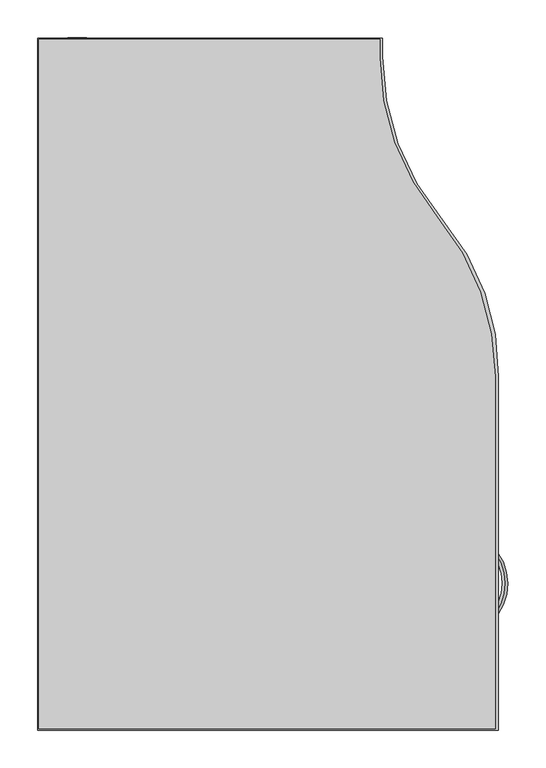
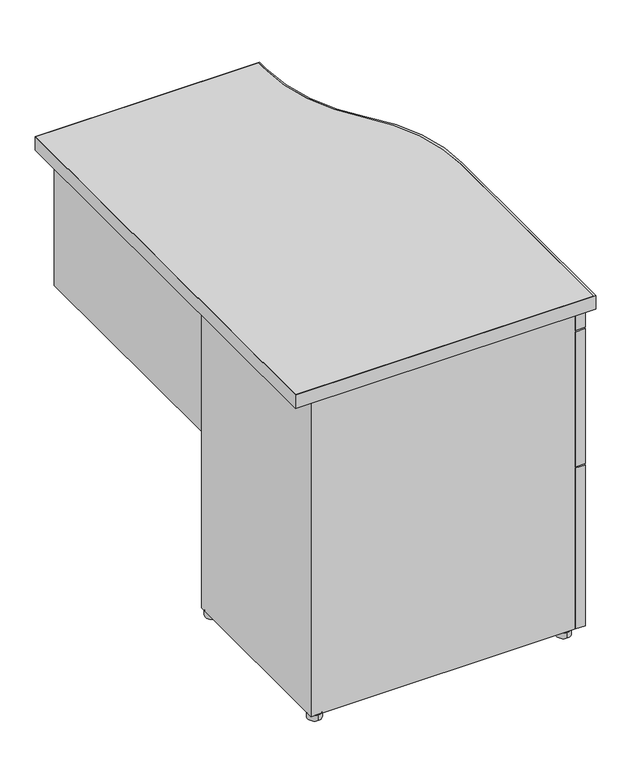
"""IFC4 building model written with IfcOpenShell, lengths in millimetres: furniture geometry, Steelcase - Kick Freestanding - Desk - Single Pedestal Transition Return - Partial Modesty Panel : 18D x 36W - Left - File/File."""

from ifc_helpers import new_model, si_unit, point, frame, frame_2d, origin, origin_with_axes, place, context, project, spatial, polyline, circle_curve, ellipse_curve, trimmed, segment, composite_curve, outline, extrude, source, transform, mapped, element, save
from ifc_brep_helpers import plane_surface, cylinder_surface, revolved_surface, extruded_surface, advanced_brep


def furniture_8282d773(model_context):
    return source(origin(), model_context, "Body", "SolidModel", [
        advanced_brep(
        [(2760.5907209, -1316.8132511, 586.4818798), (2760.5907209, -1316.8132511, 569.2783404), (2759.9247042, -1217.6632386, 586.4818798), (2759.9247042, -1217.6632386, 569.2783404)],
        [
            (0, 1, ellipse_curve(frame((2760.5907209, -1316.8132511, 577.8801101), z_axis=(-0.7327226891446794, -0.6805273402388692, 0.0), x_axis=(0.0, 0.0, -1.0)), 8.6017697, 3.6448177)),
            (1, 0, ellipse_curve(frame((2760.5907209, -1316.8132511, 577.8801101), z_axis=(-0.7327226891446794, -0.6805273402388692, 0.0), x_axis=(0.0, 0.0, -1.0)), 8.6017697, 3.6448177)),
            (2, 3, ellipse_curve(frame((2759.9247042, -1217.6632386, 577.8801101), z_axis=(-0.7417987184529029, 0.670622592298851, 0.0), x_axis=(0.0, 0.0, -1.0)), 8.6017697, 3.6448177)),
            (3, 2, ellipse_curve(frame((2759.9247042, -1217.6632386, 577.8801101), z_axis=(-0.7417987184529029, 0.670622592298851, 0.0), x_axis=(0.0, 0.0, -1.0)), 8.6017697, 3.6448177)),
            (3, 1, circle_curve(frame((2714.8305889, -1267.5433908, 569.2783404), z_axis=(0.0, 0.0, -1.0), x_axis=(0.6805273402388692, -0.7327226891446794, 0.0)), 67.2421655)),
            (0, 2, circle_curve(frame((2714.8305889, -1267.5433908, 586.4818798), z_axis=(0.0, 0.0, 1.0), x_axis=(0.6805273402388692, -0.7327226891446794, 0.0)), 67.2421655)),
        ],
        [
            plane_surface(frame((2761.3542952, -1317.6353903, 0.0), z_axis=(-0.7327226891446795, -0.6805273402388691, 0.0), x_axis=(0.0, 0.0, 1.0))),
            plane_surface(frame((2760.6771651, -1216.8309157, 0.0), z_axis=(-0.7417987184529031, 0.6706225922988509, 0.0), x_axis=(0.0, 0.0, 1.0))),
            revolved_surface(trimmed(ellipse_curve(frame((2760.5907209, -1316.8132511, 577.8801101), z_axis=(-0.7327226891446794, -0.6805273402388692, 0.0), x_axis=(0.0, 0.0, -1.0)), 8.6017697, 3.6448177), [point((2760.5907209, -1316.8132511, 586.4818798))], [point((2760.5907209, -1316.8132511, 569.2783404))], True, "CARTESIAN"), (2714.8305889, -1267.5433908, 0.0), (0.0, 0.0, 1.0)),
            revolved_surface(trimmed(ellipse_curve(frame((2760.5907209, -1316.8132511, 577.8801101), z_axis=(-0.7327226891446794, -0.6805273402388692, 0.0), x_axis=(0.0, 0.0, -1.0)), 8.6017697, 3.6448177), [point((2760.5907209, -1316.8132511, 569.2783404))], [point((2760.5907209, -1316.8132511, 586.4818798))], True, "CARTESIAN"), (2714.8305889, -1267.5433908, 0.0), (0.0, 0.0, 1.0)),
        ],
        [
            (0, [[1, 2]]),
            (1, [[3, 4]]),
            (2, [[5, -1, 6, -4]]),
            (3, [[-6, -2, -5, -3]]),
        ],
    ),
        advanced_brep(
        [(2760.5907209, -1316.8132511, 293.5881298), (2760.5907209, -1316.8132511, 276.3845904), (2759.9247042, -1217.6632386, 293.5881298), (2759.9247042, -1217.6632386, 276.3845904)],
        [
            (0, 1, ellipse_curve(frame((2760.5907209, -1316.8132511, 284.9863601), z_axis=(-0.7327226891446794, -0.6805273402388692, 0.0), x_axis=(0.0, 0.0, -1.0)), 8.6017697, 3.6448177)),
            (1, 0, ellipse_curve(frame((2760.5907209, -1316.8132511, 284.9863601), z_axis=(-0.7327226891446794, -0.6805273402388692, 0.0), x_axis=(0.0, 0.0, -1.0)), 8.6017697, 3.6448177)),
            (2, 3, ellipse_curve(frame((2759.9247042, -1217.6632386, 284.9863601), z_axis=(-0.7417987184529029, 0.670622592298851, 0.0), x_axis=(0.0, 0.0, -1.0)), 8.6017697, 3.6448177)),
            (3, 2, ellipse_curve(frame((2759.9247042, -1217.6632386, 284.9863601), z_axis=(-0.7417987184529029, 0.670622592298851, 0.0), x_axis=(0.0, 0.0, -1.0)), 8.6017697, 3.6448177)),
            (3, 1, circle_curve(frame((2714.8305889, -1267.5433908, 276.3845904), z_axis=(0.0, 0.0, -1.0), x_axis=(0.6805273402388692, -0.7327226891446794, 0.0)), 67.2421655)),
            (0, 2, circle_curve(frame((2714.8305889, -1267.5433908, 293.5881298), z_axis=(0.0, 0.0, 1.0), x_axis=(0.6805273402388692, -0.7327226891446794, 0.0)), 67.2421655)),
        ],
        [
            plane_surface(frame((2761.3542952, -1317.6353903, 0.0), z_axis=(-0.7327226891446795, -0.6805273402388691, 0.0), x_axis=(0.0, 0.0, 1.0))),
            plane_surface(frame((2760.6771651, -1216.8309157, 0.0), z_axis=(-0.7417987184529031, 0.6706225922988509, 0.0), x_axis=(0.0, 0.0, 1.0))),
            revolved_surface(trimmed(ellipse_curve(frame((2760.5907209, -1316.8132511, 284.9863601), z_axis=(-0.7327226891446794, -0.6805273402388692, 0.0), x_axis=(0.0, 0.0, -1.0)), 8.6017697, 3.6448177), [point((2760.5907209, -1316.8132511, 293.5881298))], [point((2760.5907209, -1316.8132511, 276.3845904))], True, "CARTESIAN"), (2714.8305889, -1267.5433908, 0.0), (0.0, 0.0, 1.0)),
            revolved_surface(trimmed(ellipse_curve(frame((2760.5907209, -1316.8132511, 284.9863601), z_axis=(-0.7327226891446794, -0.6805273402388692, 0.0), x_axis=(0.0, 0.0, -1.0)), 8.6017697, 3.6448177), [point((2760.5907209, -1316.8132511, 276.3845904))], [point((2760.5907209, -1316.8132511, 293.5881298))], True, "CARTESIAN"), (2714.8305889, -1267.5433908, 0.0), (0.0, 0.0, 1.0)),
        ],
        [
            (0, [[1, 2]]),
            (1, [[3, 4]]),
            (2, [[5, -1, 6, -4]]),
            (3, [[-6, -2, -5, -3]]),
        ],
    ),
        advanced_brep(
        [(2762.8455764, -1124.2380273, 671.1566635), (2762.8455764, -1103.9180273, 671.1566635), (2759.7468248, -1124.2380273, 671.1566635), (2759.7468248, -1103.9180273, 671.1566635)],
        [
            (0, 1, circle_curve(frame((2762.8455764, -1114.0780273, 671.1566635), z_axis=(1.0, 0.0, 0.0), x_axis=(0.0, 1.0, 0.0)), 10.16)),
            (1, 0, circle_curve(frame((2762.8455764, -1114.0780273, 671.1566635), z_axis=(1.0, 0.0, 0.0), x_axis=(0.0, 1.0, 0.0)), 10.16)),
            (2, 3, circle_curve(frame((2759.7468248, -1114.0780273, 671.1566635), z_axis=(-1.0, 0.0, 0.0), x_axis=(0.0, 1.0, 0.0)), 10.16)),
            (3, 2, circle_curve(frame((2759.7468248, -1114.0780273, 671.1566635), z_axis=(-1.0, 0.0, 0.0), x_axis=(0.0, 1.0, 0.0)), 10.16)),
            (0, 2),
            (3, 1),
        ],
        [
            plane_surface(frame((2762.8455764, -1103.9180273, 671.1566635), z_axis=(1.0, 0.0, 0.0), x_axis=(0.0, 0.0, 1.0))),
            plane_surface(frame((2759.7468248, -1103.9180273, 671.1566635), z_axis=(-1.0, 0.0, 0.0), x_axis=(0.0, 0.0, -1.0))),
            cylinder_surface(frame((2759.7468248, -1114.0780273, 671.1566635), z_axis=(1.0, 0.0, 0.0), x_axis=(0.0, 1.0, 0.0)), 10.16),
        ],
        [
            (0, [[1, 2]]),
            (1, [[3, 4]]),
            (2, [[-1, 5, -4, 6]]),
            (2, [[-2, -6, -3, -5]]),
        ],
    ),
        advanced_brep(
        [(2762.8455764, -1315.4140492, 589.4466513), (2762.8455764, -1315.4140492, 566.5866513), (2759.7468248, -1315.4140492, 589.4466513), (2759.7468248, -1315.4140492, 566.5866513)],
        [
            (0, 1, ellipse_curve(frame((2762.8455764, -1315.4140492, 578.0166513), z_axis=(1.0, 0.0, 0.0), x_axis=(0.0, 0.0, -1.0)), 11.43, 8.0054005)),
            (1, 0, ellipse_curve(frame((2762.8455764, -1315.4140492, 578.0166513), z_axis=(1.0, 0.0, 0.0), x_axis=(0.0, 0.0, -1.0)), 11.43, 8.0054005)),
            (2, 3, ellipse_curve(frame((2759.7468248, -1315.4140492, 578.0166513), z_axis=(-1.0, 0.0, 0.0), x_axis=(0.0, 0.0, -1.0)), 11.43, 8.0054005)),
            (3, 2, ellipse_curve(frame((2759.7468248, -1315.4140492, 578.0166513), z_axis=(-1.0, 0.0, 0.0), x_axis=(0.0, 0.0, -1.0)), 11.43, 8.0054005)),
            (0, 2),
            (3, 1),
        ],
        [
            plane_surface(frame((2762.8455764, -1103.9180273, 671.1566635), z_axis=(1.0, 0.0, 0.0), x_axis=(0.0, 0.0, 1.0))),
            plane_surface(frame((2759.7468248, -1103.9180273, 671.1566635), z_axis=(-1.0, 0.0, 0.0), x_axis=(0.0, 0.0, -1.0))),
            extruded_surface(trimmed(ellipse_curve(frame((2755.7590248, -1315.4140492, 578.0166513), z_axis=(1.0, 0.0, 0.0), x_axis=(0.0, 0.0, -1.0)), 11.43, 8.0054005), [point((2755.7590248, -1315.4140492, 589.4466513))], [point((2755.7590248, -1315.4140492, 566.5866513))], True, "CARTESIAN"), (3.098751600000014, 0.0, 0.0), 3.098751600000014),
            extruded_surface(trimmed(ellipse_curve(frame((2755.7590248, -1315.4140492, 578.0166513), z_axis=(1.0, 0.0, 0.0), x_axis=(0.0, 0.0, -1.0)), 11.43, 8.0054005), [point((2755.7590248, -1315.4140492, 566.5866513))], [point((2755.7590248, -1315.4140492, 589.4466513))], True, "CARTESIAN"), (3.098751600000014, 0.0, 0.0), 3.098751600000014),
        ],
        [
            (0, [[1, 2]]),
            (1, [[3, 4]]),
            (2, [[-1, 5, -4, 6]]),
            (3, [[-2, -6, -3, -5]]),
        ],
    ),
        advanced_brep(
        [(2762.8455764, -1218.0852323, 589.4466513), (2762.8455764, -1218.0852323, 566.5866513), (2759.7468248, -1218.0852323, 589.4466513), (2759.7468248, -1218.0852323, 566.5866513)],
        [
            (0, 1, ellipse_curve(frame((2762.8455764, -1218.0852323, 578.0166513), z_axis=(1.0, 0.0, 0.0), x_axis=(0.0, 0.0, -1.0)), 11.43, 8.0054005)),
            (1, 0, ellipse_curve(frame((2762.8455764, -1218.0852323, 578.0166513), z_axis=(1.0, 0.0, 0.0), x_axis=(0.0, 0.0, -1.0)), 11.43, 8.0054005)),
            (2, 3, ellipse_curve(frame((2759.7468248, -1218.0852323, 578.0166513), z_axis=(-1.0, 0.0, 0.0), x_axis=(0.0, 0.0, -1.0)), 11.43, 8.0054005)),
            (3, 2, ellipse_curve(frame((2759.7468248, -1218.0852323, 578.0166513), z_axis=(-1.0, 0.0, 0.0), x_axis=(0.0, 0.0, -1.0)), 11.43, 8.0054005)),
            (0, 2),
            (3, 1),
        ],
        [
            plane_surface(frame((2762.8455764, -1103.9180273, 671.1566635), z_axis=(1.0, 0.0, 0.0), x_axis=(0.0, 0.0, 1.0))),
            plane_surface(frame((2759.7468248, -1103.9180273, 671.1566635), z_axis=(-1.0, 0.0, 0.0), x_axis=(0.0, 0.0, -1.0))),
            extruded_surface(trimmed(ellipse_curve(frame((2755.7590248, -1218.0852323, 578.0166513), z_axis=(1.0, 0.0, 0.0), x_axis=(0.0, 0.0, -1.0)), 11.43, 8.0054005), [point((2755.7590248, -1218.0852323, 589.4466513))], [point((2755.7590248, -1218.0852323, 566.5866513))], True, "CARTESIAN"), (3.098751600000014, 0.0, 0.0), 3.098751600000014),
            extruded_surface(trimmed(ellipse_curve(frame((2755.7590248, -1218.0852323, 578.0166513), z_axis=(1.0, 0.0, 0.0), x_axis=(0.0, 0.0, -1.0)), 11.43, 8.0054005), [point((2755.7590248, -1218.0852323, 566.5866513))], [point((2755.7590248, -1218.0852323, 589.4466513))], True, "CARTESIAN"), (3.098751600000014, 0.0, 0.0), 3.098751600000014),
        ],
        [
            (0, [[1, 2]]),
            (1, [[3, 4]]),
            (2, [[-1, 5, -4, 6]]),
            (3, [[-2, -6, -3, -5]]),
        ],
    ),
        advanced_brep(
        [(2762.8455764, -1314.1790775, 296.5864566), (2762.8455764, -1314.1790775, 273.7264566), (2759.7468248, -1314.1790775, 296.5864566), (2759.7468248, -1314.1790775, 273.7264566)],
        [
            (0, 1, ellipse_curve(frame((2762.8455764, -1314.1790775, 285.1564566), z_axis=(1.0, 0.0, 0.0), x_axis=(0.0, 0.0, -1.0)), 11.43, 8.0054005)),
            (1, 0, ellipse_curve(frame((2762.8455764, -1314.1790775, 285.1564566), z_axis=(1.0, 0.0, 0.0), x_axis=(0.0, 0.0, -1.0)), 11.43, 8.0054005)),
            (2, 3, ellipse_curve(frame((2759.7468248, -1314.1790775, 285.1564566), z_axis=(-1.0, 0.0, 0.0), x_axis=(0.0, 0.0, -1.0)), 11.43, 8.0054005)),
            (3, 2, ellipse_curve(frame((2759.7468248, -1314.1790775, 285.1564566), z_axis=(-1.0, 0.0, 0.0), x_axis=(0.0, 0.0, -1.0)), 11.43, 8.0054005)),
            (0, 2),
            (3, 1),
        ],
        [
            plane_surface(frame((2762.8455764, -1103.9180273, 671.1566635), z_axis=(1.0, 0.0, 0.0), x_axis=(0.0, 0.0, 1.0))),
            plane_surface(frame((2759.7468248, -1103.9180273, 671.1566635), z_axis=(-1.0, 0.0, 0.0), x_axis=(0.0, 0.0, -1.0))),
            extruded_surface(trimmed(ellipse_curve(frame((2755.7590248, -1314.1790775, 285.1564566), z_axis=(1.0, 0.0, 0.0), x_axis=(0.0, 0.0, -1.0)), 11.43, 8.0054005), [point((2755.7590248, -1314.1790775, 296.5864566))], [point((2755.7590248, -1314.1790775, 273.7264566))], True, "CARTESIAN"), (3.098751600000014, 0.0, 0.0), 3.098751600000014),
            extruded_surface(trimmed(ellipse_curve(frame((2755.7590248, -1314.1790775, 285.1564566), z_axis=(1.0, 0.0, 0.0), x_axis=(0.0, 0.0, -1.0)), 11.43, 8.0054005), [point((2755.7590248, -1314.1790775, 273.7264566))], [point((2755.7590248, -1314.1790775, 296.5864566))], True, "CARTESIAN"), (3.098751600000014, 0.0, 0.0), 3.098751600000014),
        ],
        [
            (0, [[1, 2]]),
            (1, [[3, 4]]),
            (2, [[-1, 5, -4, 6]]),
            (3, [[-2, -6, -3, -5]]),
        ],
    ),
        advanced_brep(
        [(2762.8455764, -1216.8502606, 296.5864566), (2762.8455764, -1216.8502606, 273.7264566), (2759.7468248, -1216.8502606, 296.5864566), (2759.7468248, -1216.8502606, 273.7264566)],
        [
            (0, 1, ellipse_curve(frame((2762.8455764, -1216.8502606, 285.1564566), z_axis=(1.0, 0.0, 0.0), x_axis=(0.0, 0.0, -1.0)), 11.43, 8.0054005)),
            (1, 0, ellipse_curve(frame((2762.8455764, -1216.8502606, 285.1564566), z_axis=(1.0, 0.0, 0.0), x_axis=(0.0, 0.0, -1.0)), 11.43, 8.0054005)),
            (2, 3, ellipse_curve(frame((2759.7468248, -1216.8502606, 285.1564566), z_axis=(-1.0, 0.0, 0.0), x_axis=(0.0, 0.0, -1.0)), 11.43, 8.0054005)),
            (3, 2, ellipse_curve(frame((2759.7468248, -1216.8502606, 285.1564566), z_axis=(-1.0, 0.0, 0.0), x_axis=(0.0, 0.0, -1.0)), 11.43, 8.0054005)),
            (0, 2),
            (3, 1),
        ],
        [
            plane_surface(frame((2762.8455764, -1103.9180273, 671.1566635), z_axis=(1.0, 0.0, 0.0), x_axis=(0.0, 0.0, 1.0))),
            plane_surface(frame((2759.7468248, -1103.9180273, 671.1566635), z_axis=(-1.0, 0.0, 0.0), x_axis=(0.0, 0.0, -1.0))),
            extruded_surface(trimmed(ellipse_curve(frame((2755.7590248, -1216.8502606, 285.1564566), z_axis=(1.0, 0.0, 0.0), x_axis=(0.0, 0.0, -1.0)), 11.43, 8.0054005), [point((2755.7590248, -1216.8502606, 296.5864566))], [point((2755.7590248, -1216.8502606, 273.7264566))], True, "CARTESIAN"), (3.098751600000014, 0.0, 0.0), 3.098751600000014),
            extruded_surface(trimmed(ellipse_curve(frame((2755.7590248, -1216.8502606, 285.1564566), z_axis=(1.0, 0.0, 0.0), x_axis=(0.0, 0.0, -1.0)), 11.43, 8.0054005), [point((2755.7590248, -1216.8502606, 273.7264566))], [point((2755.7590248, -1216.8502606, 296.5864566))], True, "CARTESIAN"), (3.098751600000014, 0.0, 0.0), 3.098751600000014),
        ],
        [
            (0, [[1, 2]]),
            (1, [[3, 4]]),
            (2, [[-1, 5, -4, 6]]),
            (3, [[-2, -6, -3, -5]]),
        ],
    ),
        extrude(outline(polyline([(2759.7468248, -1062.9776054), (2759.7468248, -1447.9145982), (2739.8077764, -1447.9145982), (2739.8077764, -1062.9776054), (2759.7468248, -1062.9776054)])), frame((0.0, 0.0, 360.6545895), z_axis=(0.0, 0.0, 1.0), x_axis=(1.0, 0.0, 0.0)), (0.0, 0.0, 1.0), 288.9250242),
        extrude(outline(polyline([(2759.7468248, -1062.9776054), (2759.7468248, -1447.9145982), (2739.8077764, -1447.9145982), (2739.8077764, -1062.9776054), (2759.7468248, -1062.9776054)])), frame((0.0, 0.0, 12.7), z_axis=(0.0, 0.0, 1.0), x_axis=(1.0, 0.0, 0.0)), (0.0, 0.0, 1.0), 344.7796016),
        extrude(outline(polyline([(2759.7468248, -1062.9776054), (2759.7468248, -1447.9145982), (2739.8077764, -1447.9145982), (2739.8077764, -1062.9776054), (2759.7468248, -1062.9776054)])), frame((0.0, 0.0, 652.7545653), z_axis=(0.0, 0.0, 1.0), x_axis=(1.0, 0.0, 0.0)), (0.0, 0.0, 1.0), 40.6400339),
        extrude(outline(composite_curve([segment(trimmed(circle_curve(frame_2d((2217.7074425, -1435.3382652)), 13.97), [point((2217.7074425, -1449.3082652))], [point((2217.7074425, -1421.3682652))], False, "CARTESIAN"), True, "CONTINUOUS"), segment(trimmed(circle_curve(frame_2d((2217.7074425, -1435.3382652)), 13.97), [point((2217.7074425, -1421.3682652))], [point((2217.7074425, -1449.3082652))], False, "CARTESIAN"), True, "CONTINUOUS")], self_intersect=False)), origin_with_axes(), (0.0, 0.0, 1.0), 12.446),
        extrude(outline(composite_curve([segment(trimmed(circle_curve(frame_2d((2722.6594425, -1435.3382652)), 13.97), [point((2722.6594425, -1449.3082652))], [point((2722.6594425, -1421.3682652))], False, "CARTESIAN"), True, "CONTINUOUS"), segment(trimmed(circle_curve(frame_2d((2722.6594425, -1435.3382652)), 13.97), [point((2722.6594425, -1421.3682652))], [point((2722.6594425, -1449.3082652))], False, "CARTESIAN"), True, "CONTINUOUS")], self_intersect=False)), origin_with_axes(), (0.0, 0.0, 1.0), 12.446),
        extrude(outline(composite_curve([segment(trimmed(circle_curve(frame_2d((2217.7074425, -1075.6776054)), 13.97), [point((2217.7074425, -1089.6476054))], [point((2217.7074425, -1061.7076054))], False, "CARTESIAN"), True, "CONTINUOUS"), segment(trimmed(circle_curve(frame_2d((2217.7074425, -1075.6776054)), 13.97), [point((2217.7074425, -1061.7076054))], [point((2217.7074425, -1089.6476054))], False, "CARTESIAN"), True, "CONTINUOUS")], self_intersect=False)), origin_with_axes(), (0.0, 0.0, 1.0), 12.446),
        extrude(outline(composite_curve([segment(trimmed(circle_curve(frame_2d((2723.4604252, -1075.6776054)), 12.7), [point((2723.4604252, -1088.3776054))], [point((2723.4604252, -1062.9776054))], False, "CARTESIAN"), True, "CONTINUOUS"), segment(trimmed(circle_curve(frame_2d((2723.4604252, -1075.6776054)), 12.7), [point((2723.4604252, -1062.9776054))], [point((2723.4604252, -1088.3776054))], False, "CARTESIAN"), True, "CONTINUOUS")], self_intersect=False)), origin_with_axes(), (0.0, 0.0, 1.0), 12.446),
        extrude(outline(polyline([(2203.2328248, -1062.9776054), (2739.8077764, -1062.9776054), (2739.8077764, -1447.9145982), (2203.2328248, -1447.9145982), (2203.2328248, -1062.9776054)]), holes=[polyline([(2228.6328241, -1082.8149846), (2228.6328241, -1428.0771996), (2719.2338142, -1428.0771996), (2719.2338142, -1082.8149846), (2228.6328241, -1082.8149846)])]), frame((0.0, 0.0, 12.446), z_axis=(0.0, 0.0, 1.0), x_axis=(1.0, 0.0, 0.0)), (0.0, 0.0, 1.0), 682.498),
        extrude(outline(composite_curve([segment(polyline([(2616.8176592, -547.8051152), (2616.8176592, -572.1320079)]), True, "CONTINUOUS"), segment(trimmed(circle_curve(frame_2d((2941.6463505, -574.5942763)), 324.8380233), [point((2616.8176592, -572.1320079))], [point((2692.5587903, -783.1011797))], True, "CARTESIAN"), True, "CONTINUOUS"), segment(trimmed(circle_curve(frame_2d((2440.4841513, -994.1085152)), 328.7335079), [point((2692.5587903, -783.1011797))], [point((2769.2176592, -994.1085152))], False, "CARTESIAN"), True, "CONTINUOUS"), segment(polyline([(2769.2176592, -994.1085152), (2769.2176592, -1459.4619332), (2164.8500425, -1459.4619332), (2164.8500425, -547.8051152), (2616.8176592, -547.8051152)]), True, "CONTINUOUS")], self_intersect=False)), frame((0.0, 0.0, 694.944), z_axis=(0.0, 0.0, 1.0), x_axis=(1.0, 0.0, 0.0)), (0.0, 0.0, 1.0), 28.956),
        extrude(outline(composite_curve([segment(polyline([(2619.7894255, -546.8145152), (2619.7894255, -571.0836731)]), True, "CONTINUOUS"), segment(trimmed(circle_curve(frame_2d((2951.3460478, -571.0836731)), 331.5566223), [point((2619.7894255, -571.0836731))], [point((2699.261298, -786.4509703))], True, "CARTESIAN"), True, "CONTINUOUS"), segment(trimmed(circle_curve(frame_2d((2463.6949436, -987.7058619)), 309.8306613), [point((2699.261298, -786.4509703))], [point((2773.4594425, -994.1085152))], False, "CARTESIAN"), True, "CONTINUOUS"), segment(polyline([(2773.4594425, -994.1085152), (2773.4594425, -1461.2145152), (2163.8594425, -1461.2145152), (2163.8594425, -546.8145152), (2619.7894255, -546.8145152)]), True, "CONTINUOUS")], self_intersect=False), holes=[composite_curve([segment(polyline([(2616.8176592, -547.8051152), (2164.8500425, -547.8051152), (2164.8500425, -1459.4619332), (2769.2176592, -1459.4619332), (2769.2176592, -994.1085152)]), True, "CONTINUOUS"), segment(trimmed(circle_curve(frame_2d((2440.4841513, -994.1085152)), 328.7335079), [point((2769.2176592, -994.1085152))], [point((2692.5587903, -783.1011797))], True, "CARTESIAN"), True, "CONTINUOUS"), segment(trimmed(circle_curve(frame_2d((2941.6463505, -574.5942763)), 324.8380233), [point((2692.5587903, -783.1011797))], [point((2616.8176592, -572.1320079))], False, "CARTESIAN"), True, "CONTINUOUS"), segment(polyline([(2616.8176592, -572.1320079), (2616.8176592, -547.8051152)]), True, "CONTINUOUS")], self_intersect=False)]), frame((0.0, 0.0, 694.944), z_axis=(0.0, 0.0, 1.0), x_axis=(1.0, 0.0, 0.0)), (0.0, 0.0, 1.0), 28.956),
        extrude(outline(polyline([(2228.6328241, -546.0525152), (2228.6328241, -1062.9776054), (2203.2328248, -1062.9776054), (2203.2328248, -546.0525152), (2228.6328241, -546.0525152)])), frame((0.0, 0.0, 390.144), z_axis=(0.0, 0.0, 1.0), x_axis=(1.0, 0.0, 0.0)), (0.0, 0.0, 1.0), 304.8),
    ])


if __name__ == "__main__":
    model = new_model("IFC4")
    model_context = context("Model", 3, world=origin())
    ifc_project = project(units=[si_unit("LENGTHUNIT", "METRE", prefix="MILLI")], contexts=[model_context])
    site = spatial("IfcSite", under=ifc_project)
    building = spatial("IfcBuilding", under=site)
    placement = place(None, origin())
    furniture_shape = furniture_8282d773(model_context)
    element("IfcFurniture", 1, ObjectType="Steelcase - Kick Freestanding - Desk - Single Pedestal Transition Return - Partial Modesty Panel : 18D x 36W - Left - File/File", at=placement, inside=building, context=model_context, shape_type="MappedRepresentation", body=[
        mapped(furniture_shape, transform((0.0, 0.0, 0.0), x_axis=(1.0, 0.0, 0.0), y_axis=(0.0, 1.0, 0.0), z_axis=(0.0, 0.0, 1.0))),
    ])
    save(model, "model.ifc")
